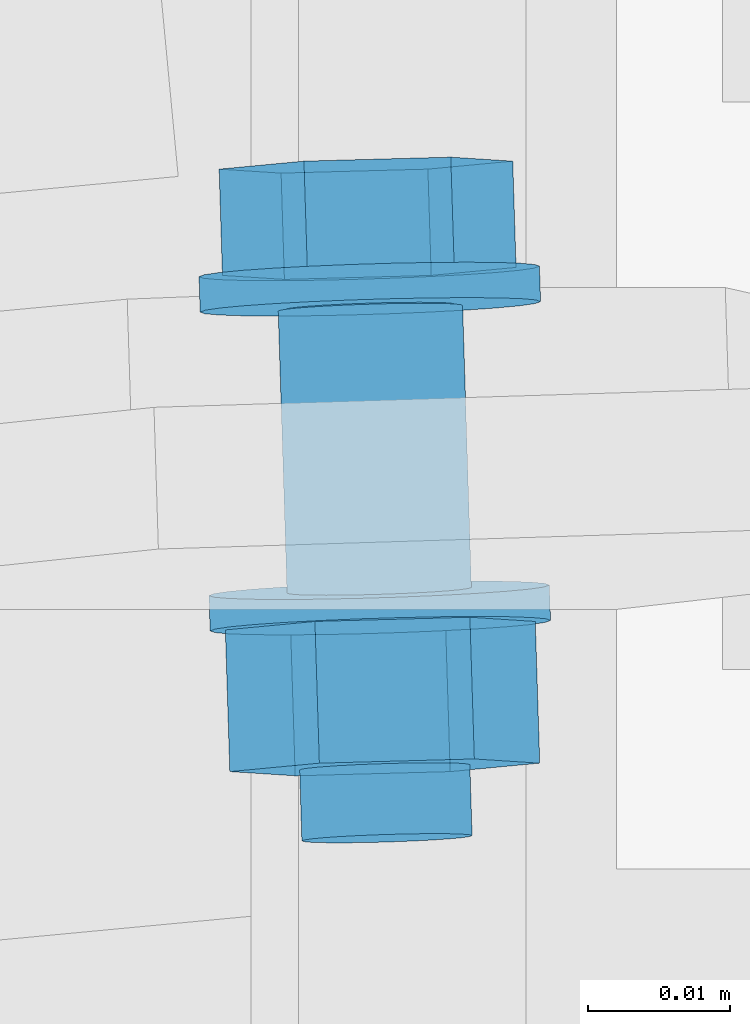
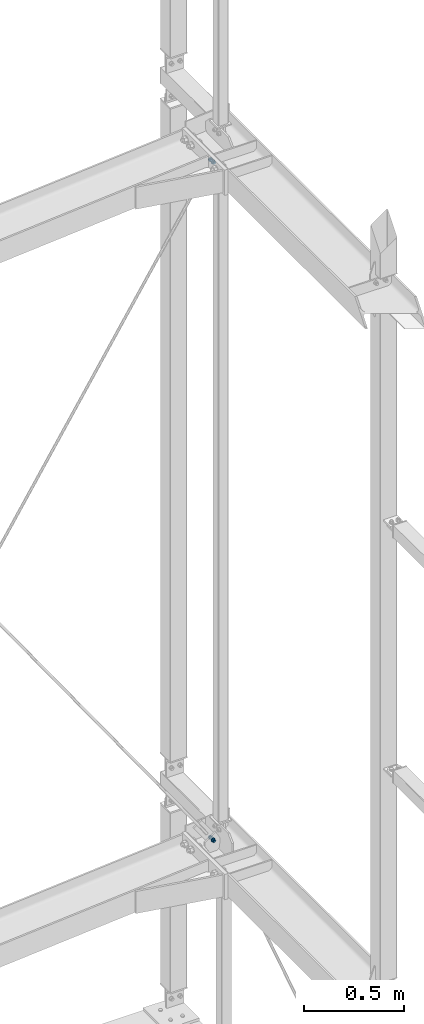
# One storey, part 269 of 271: 2 mechanical fasteners, 2 elements without a shape of their own.
"""IFC2X3 building model written with IfcOpenShell, lengths in millimetres."""

from ifc_helpers import new_model, si_unit, frame, origin_with_axes, origin_2d_with_axis, place, context, subcontext, project, spatial, polyline, circle, outline, extrude, source, transform, mapped, material, type_object, element, aggregate, save


model = new_model("IFC2X3")

# Units and contexts
model_context = context("Model", 3, precision=1e-05, world=origin_with_axes())
body_context = subcontext(model_context, "Body", "Model", "MODEL_VIEW")
ifc_project = project(units=[si_unit("LENGTHUNIT", "METRE", prefix="MILLI"), si_unit("AREAUNIT", "SQUARE_METRE"), si_unit("VOLUMEUNIT", "CUBIC_METRE"), si_unit("MASSUNIT", "GRAM", prefix="KILO"), si_unit("TIMEUNIT", "SECOND"), si_unit("PLANEANGLEUNIT", "RADIAN"), si_unit("SOLIDANGLEUNIT", "STERADIAN"), si_unit("THERMODYNAMICTEMPERATUREUNIT", "DEGREE_CELSIUS"), si_unit("LUMINOUSINTENSITYUNIT", "LUMEN")], contexts=[model_context])

# Site, building, storey
site_placement = place(None, origin_with_axes())
site = spatial("IfcSite", under=ifc_project, at=site_placement, Name="Undefined", CompositionType="ELEMENT")
building_placement = place(site_placement, origin_with_axes())
building = spatial("IfcBuilding", under=site, at=building_placement, Name="Undefined", CompositionType="ELEMENT")
storey_placement = place(building_placement, origin_with_axes())
storey = spatial("IfcBuildingStorey", under=building, at=storey_placement, Name="Undefined", CompositionType="ELEMENT", Elevation=0.0)

# Assembly, mechanical fastener
assembly_1_placement = place(storey_placement, origin_with_axes())
assembly_1 = element("IfcElementAssembly", 1, at=assembly_1_placement, inside=storey, AssemblyPlace="NOTDEFINED", PredefinedType="RIGID_FRAME")
ifc_material = material(Name="Undefined")
mechanical_fastener_type = type_object("IfcMechanicalFastenerType", Name="Bolt assembly")
shared_shape = source(origin_with_axes(), body_context, "Body", "SweptSolid", [
    extrude(circle(Radius=6.5, at=origin_2d_with_axis()), frame((0.0, -5.1, 0.0), z_axis=(0.0, 1.0, 0.0), x_axis=(1.0, 0.0, 0.0)), (0.0, 0.0, 1.0), 10.1),
    extrude(circle(Radius=6.5, at=origin_2d_with_axis()), frame((0.0, -14.9000000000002, 0.0), z_axis=(0.0, 1.0, 0.0), x_axis=(1.0, 0.0, 0.0)), (0.0, 0.0, 1.0), 10.0),
    extrude(outline(polyline([(10.39230484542, 0.0), (5.19615242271, 9.00000000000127), (-5.19615242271, 9.00000000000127), (-10.39230484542, 0.0), (-5.19615242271, -9.00000000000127), (5.19615242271, -9.00000000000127), (10.39230484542, 0.0)])), frame((0.0, -25.0000000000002, 0.0), z_axis=(0.0, 1.0, 0.0), x_axis=(1.0, 0.0, 0.0)), (0.0, 0.0, 1.0), 7.5),
    extrude(circle(Radius=6.0, at=origin_2d_with_axis()), frame((0.0, -17.5000000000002, 0.0), z_axis=(0.0, 1.0, 0.0), x_axis=(1.0, 0.0, 0.0)), (0.0, 0.0, 1.0), 40.0),
    extrude(circle(Radius=12.0, at=origin_2d_with_axis()), frame((0.0, -17.5000000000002, 0.0), z_axis=(0.0, 1.0, 0.0), x_axis=(1.0, 0.0, 0.0)), (0.0, 0.0, 1.0), 2.5),
    extrude(circle(Radius=12.0, at=origin_2d_with_axis()), frame((0.0, 5.00000000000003, 0.0), z_axis=(0.0, 1.0, 0.0), x_axis=(1.0, 0.0, 0.0)), (0.0, 0.0, 1.0), 2.5),
    extrude(outline(polyline([(10.96965511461, 0.0), (5.484827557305, 9.50000000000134), (-5.484827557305, 9.50000000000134), (-10.96965511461, 0.0), (-5.484827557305, -9.50000000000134), (5.484827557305, -9.50000000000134), (10.96965511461, 0.0)])), frame((0.0, 7.50000000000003, 0.0), z_axis=(0.0, 1.0, 0.0), x_axis=(1.0, 0.0, 0.0)), (0.0, 0.0, 1.0), 10.0),
])
mechanical_fastener_1_placement = place(assembly_1_placement, frame((12516.8902461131, 4276.82262382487, 1445.0100234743), z_axis=(0.817327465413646, 2.23044480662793e-11, 0.576173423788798), x_axis=(-0.575326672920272, -0.054194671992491, 0.816126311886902)))
mechanical_fastener_1 = element("IfcMechanicalFastener", 2, at=mechanical_fastener_1_placement, type_object=mechanical_fastener_type, material=ifc_material, Name="Bolt assembly", NominalDiameter=12.0, NominalLength=40.0, context=body_context, shape_type="MappedRepresentation", body=[
    mapped(shared_shape, transform((0.0, 0.0, 0.0))),
])
aggregate(assembly_1, [mechanical_fastener_1])

assembly_2_placement = place(storey_placement, origin_with_axes())
assembly_2 = element("IfcElementAssembly", 3, at=assembly_2_placement, inside=storey, AssemblyPlace="NOTDEFINED", PredefinedType="RIGID_FRAME")
mechanical_fastener_2_placement = place(assembly_2_placement, frame((12516.8902455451, 4276.82262382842, 5603.68997552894), z_axis=(-0.817327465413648, -2.23044480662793e-11, 0.576173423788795), x_axis=(-0.575326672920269, -0.0541946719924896, -0.816126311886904)))
mechanical_fastener_2 = element("IfcMechanicalFastener", 4, at=mechanical_fastener_2_placement, type_object=mechanical_fastener_type, material=ifc_material, Name="Bolt assembly", NominalDiameter=12.0, NominalLength=40.0, context=body_context, shape_type="MappedRepresentation", body=[
    mapped(shared_shape, transform((0.0, 0.0, 0.0))),
])
aggregate(assembly_2, [mechanical_fastener_2])

save(model, "model.ifc")
